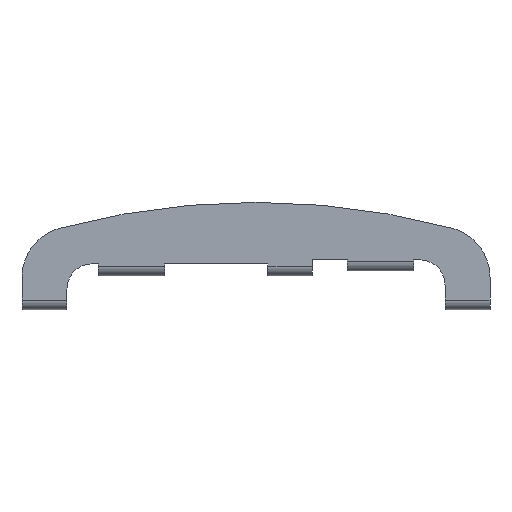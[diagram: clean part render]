
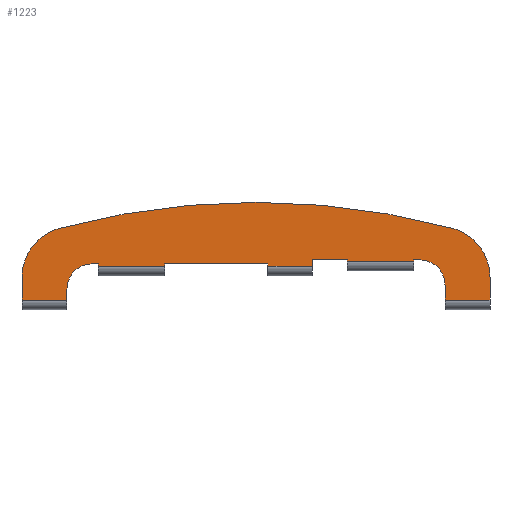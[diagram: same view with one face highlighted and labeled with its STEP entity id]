
A CAD part, top view. The second image highlights one B-rep face of the part: STEP entity #1223.
In plain terms, the highlighted planar face has unit normal (0, 0, 1).
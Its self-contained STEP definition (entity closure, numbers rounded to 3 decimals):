
#51=CIRCLE('',#1293,8.);
#54=CIRCLE('',#1298,8.);
#56=CIRCLE('',#1302,16.);
#57=CIRCLE('',#1304,240.);
#60=CIRCLE('',#1309,16.);
#128=FACE_OUTER_BOUND('',#200,.T.);
#200=EDGE_LOOP('',(#1019,#1020,#1021,#1022,#1023,#1024,#1025,#1026,#1027,
#1028,#1029,#1030,#1031,#1032,#1033,#1034,#1035,#1036,#1037,#1038,#1039,
#1040,#1041,#1042));
#245=LINE('',#1793,#380);
#249=LINE('',#1804,#384);
#256=LINE('',#1822,#391);
#285=LINE('',#1893,#420);
#288=LINE('',#1905,#423);
#310=LINE('',#1956,#445);
#326=LINE('',#1997,#461);
#331=LINE('',#2011,#466);
#332=LINE('',#2015,#467);
#335=LINE('',#2024,#470);
#337=LINE('',#2029,#472);
#338=LINE('',#2031,#473);
#339=LINE('',#2033,#474);
#340=LINE('',#2035,#475);
#341=LINE('',#2036,#476);
#342=LINE('',#2038,#477);
#343=LINE('',#2039,#478);
#344=LINE('',#2041,#479);
#345=LINE('',#2042,#480);
#380=VECTOR('',#1426,10.);
#384=VECTOR('',#1436,10.);
#391=VECTOR('',#1449,10.);
#420=VECTOR('',#1506,10.);
#423=VECTOR('',#1517,10.);
#445=VECTOR('',#1561,10.);
#461=VECTOR('',#1603,10.);
#466=VECTOR('',#1626,10.);
#467=VECTOR('',#1631,10.);
#470=VECTOR('',#1646,10.);
#472=VECTOR('',#1654,10.);
#473=VECTOR('',#1657,10.);
#474=VECTOR('',#1658,10.);
#475=VECTOR('',#1659,10.);
#476=VECTOR('',#1660,10.);
#477=VECTOR('',#1661,10.);
#478=VECTOR('',#1662,10.);
#479=VECTOR('',#1663,10.);
#480=VECTOR('',#1664,10.);
#515=VERTEX_POINT('',#1790);
#516=VERTEX_POINT('',#1792);
#519=VERTEX_POINT('',#1801);
#520=VERTEX_POINT('',#1803);
#527=VERTEX_POINT('',#1819);
#528=VERTEX_POINT('',#1821);
#551=VERTEX_POINT('',#1880);
#552=VERTEX_POINT('',#1881);
#556=VERTEX_POINT('',#1891);
#559=VERTEX_POINT('',#1898);
#560=VERTEX_POINT('',#1900);
#561=VERTEX_POINT('',#1904);
#565=VERTEX_POINT('',#1913);
#566=VERTEX_POINT('',#1915);
#567=VERTEX_POINT('',#1919);
#578=VERTEX_POINT('',#1950);
#579=VERTEX_POINT('',#1954);
#590=VERTEX_POINT('',#1994);
#591=VERTEX_POINT('',#1996);
#592=VERTEX_POINT('',#2013);
#593=VERTEX_POINT('',#2032);
#594=VERTEX_POINT('',#2034);
#595=VERTEX_POINT('',#2037);
#596=VERTEX_POINT('',#2040);
#628=EDGE_CURVE('',#515,#516,#245,.T.);
#634=EDGE_CURVE('',#519,#520,#249,.T.);
#643=EDGE_CURVE('',#527,#528,#256,.T.);
#672=EDGE_CURVE('',#551,#552,#51,.T.);
#678=EDGE_CURVE('',#556,#552,#285,.T.);
#681=EDGE_CURVE('',#560,#559,#54,.T.);
#683=EDGE_CURVE('',#560,#561,#288,.T.);
#688=EDGE_CURVE('',#566,#565,#56,.T.);
#690=EDGE_CURVE('',#567,#566,#57,.T.);
#708=EDGE_CURVE('',#578,#567,#60,.T.);
#711=EDGE_CURVE('',#565,#579,#310,.T.);
#731=EDGE_CURVE('',#590,#591,#326,.T.);
#739=EDGE_CURVE('',#520,#527,#331,.T.);
#741=EDGE_CURVE('',#592,#519,#332,.T.);
#745=EDGE_CURVE('',#528,#515,#335,.T.);
#747=EDGE_CURVE('',#516,#559,#337,.T.);
#748=EDGE_CURVE('',#579,#561,#338,.T.);
#749=EDGE_CURVE('',#593,#592,#339,.T.);
#750=EDGE_CURVE('',#594,#593,#340,.T.);
#751=EDGE_CURVE('',#591,#594,#341,.T.);
#752=EDGE_CURVE('',#595,#590,#342,.T.);
#753=EDGE_CURVE('',#551,#595,#343,.T.);
#754=EDGE_CURVE('',#556,#596,#344,.T.);
#755=EDGE_CURVE('',#596,#578,#345,.T.);
#1019=ORIENTED_EDGE('',*,*,#688,.T.);
#1020=ORIENTED_EDGE('',*,*,#711,.T.);
#1021=ORIENTED_EDGE('',*,*,#748,.T.);
#1022=ORIENTED_EDGE('',*,*,#683,.F.);
#1023=ORIENTED_EDGE('',*,*,#681,.T.);
#1024=ORIENTED_EDGE('',*,*,#747,.F.);
#1025=ORIENTED_EDGE('',*,*,#628,.F.);
#1026=ORIENTED_EDGE('',*,*,#745,.F.);
#1027=ORIENTED_EDGE('',*,*,#643,.F.);
#1028=ORIENTED_EDGE('',*,*,#739,.F.);
#1029=ORIENTED_EDGE('',*,*,#634,.F.);
#1030=ORIENTED_EDGE('',*,*,#741,.F.);
#1031=ORIENTED_EDGE('',*,*,#749,.F.);
#1032=ORIENTED_EDGE('',*,*,#750,.F.);
#1033=ORIENTED_EDGE('',*,*,#751,.F.);
#1034=ORIENTED_EDGE('',*,*,#731,.F.);
#1035=ORIENTED_EDGE('',*,*,#752,.F.);
#1036=ORIENTED_EDGE('',*,*,#753,.F.);
#1037=ORIENTED_EDGE('',*,*,#672,.T.);
#1038=ORIENTED_EDGE('',*,*,#678,.F.);
#1039=ORIENTED_EDGE('',*,*,#754,.T.);
#1040=ORIENTED_EDGE('',*,*,#755,.T.);
#1041=ORIENTED_EDGE('',*,*,#708,.T.);
#1042=ORIENTED_EDGE('',*,*,#690,.T.);
#1158=PLANE('',#1344);
#1223=ADVANCED_FACE('',(#128),#1158,.T.);
#1293=AXIS2_PLACEMENT_3D('',#1882,#1496,#1497);
#1298=AXIS2_PLACEMENT_3D('',#1901,#1512,#1513);
#1302=AXIS2_PLACEMENT_3D('',#1916,#1525,#1526);
#1304=AXIS2_PLACEMENT_3D('',#1920,#1530,#1531);
#1309=AXIS2_PLACEMENT_3D('',#1951,#1555,#1556);
#1344=AXIS2_PLACEMENT_3D('',#2030,#1655,#1656);
#1426=DIRECTION('',(0.,1.,0.));
#1436=DIRECTION('',(0.,1.,0.));
#1449=DIRECTION('',(0.,-1.,0.));
#1496=DIRECTION('center_axis',(0.,0.,-1.));
#1497=DIRECTION('ref_axis',(0.707,0.707,0.));
#1506=DIRECTION('',(0.,1.,0.));
#1512=DIRECTION('center_axis',(0.,0.,-1.));
#1513=DIRECTION('ref_axis',(-0.707,0.707,0.));
#1517=DIRECTION('',(0.,-1.,0.));
#1525=DIRECTION('center_axis',(0.,0.,1.));
#1526=DIRECTION('ref_axis',(-0.794,0.608,0.));
#1530=DIRECTION('center_axis',(0.,0.,1.));
#1531=DIRECTION('ref_axis',(-1.,0.,0.));
#1555=DIRECTION('center_axis',(0.,0.,1.));
#1556=DIRECTION('ref_axis',(0.794,0.608,0.));
#1561=DIRECTION('',(0.,-1.,0.));
#1603=DIRECTION('',(-1.,0.,0.));
#1626=DIRECTION('',(-1.,0.,0.));
#1631=DIRECTION('',(-1.,0.,0.));
#1646=DIRECTION('',(-1.,0.,0.));
#1654=DIRECTION('',(-1.,0.,0.));
#1655=DIRECTION('center_axis',(0.,0.,1.));
#1656=DIRECTION('ref_axis',(1.,0.,0.));
#1657=DIRECTION('',(1.,0.,0.));
#1658=DIRECTION('',(0.,-1.,0.));
#1659=DIRECTION('',(-1.,0.,0.));
#1660=DIRECTION('',(0.,1.,0.));
#1661=DIRECTION('',(0.,-1.,0.));
#1662=DIRECTION('',(-1.,0.,0.));
#1663=DIRECTION('',(1.,0.,0.));
#1664=DIRECTION('',(0.,1.,0.));
#1790=CARTESIAN_POINT('',(-50.,-20.25,0.));
#1792=CARTESIAN_POINT('',(-50.,-19.5,0.));
#1793=CARTESIAN_POINT('',(-50.,-19.375,0.));
#1801=CARTESIAN_POINT('',(3.8,-20.25,0.));
#1803=CARTESIAN_POINT('',(3.8,-19.5,0.));
#1804=CARTESIAN_POINT('',(3.8,-19.375,0.));
#1819=CARTESIAN_POINT('',(-29.,-19.5,0.));
#1821=CARTESIAN_POINT('',(-29.,-20.25,0.));
#1822=CARTESIAN_POINT('',(-29.,-17.5,0.));
#1880=CARTESIAN_POINT('',(52.,-18.25,0.));
#1881=CARTESIAN_POINT('',(60.,-26.25,0.));
#1882=CARTESIAN_POINT('Origin',(52.,-26.25,0.));
#1891=CARTESIAN_POINT('',(60.,-31.,0.));
#1893=CARTESIAN_POINT('',(60.,-17.875,0.));
#1898=CARTESIAN_POINT('',(-52.,-19.5,0.));
#1900=CARTESIAN_POINT('',(-60.,-27.5,0.));
#1901=CARTESIAN_POINT('Origin',(-52.,-27.5,0.));
#1904=CARTESIAN_POINT('',(-60.,-31.,0.));
#1905=CARTESIAN_POINT('',(-60.,-17.5,0.));
#1913=CARTESIAN_POINT('',(-74.25,-23.706,0.));
#1915=CARTESIAN_POINT('',(-62.411,-8.257,0.));
#1916=CARTESIAN_POINT('Origin',(-58.25,-23.706,0.));
#1919=CARTESIAN_POINT('',(62.411,-8.257,0.));
#1920=CARTESIAN_POINT('Origin',(0.,-240.,0.));
#1950=CARTESIAN_POINT('',(74.25,-23.706,0.));
#1951=CARTESIAN_POINT('Origin',(58.25,-23.706,0.));
#1954=CARTESIAN_POINT('',(-74.25,-31.,0.));
#1956=CARTESIAN_POINT('',(-74.25,0.,0.));
#1994=CARTESIAN_POINT('',(50.,-18.75,0.));
#1996=CARTESIAN_POINT('',(29.,-18.75,0.));
#1997=CARTESIAN_POINT('',(14.5,-18.75,0.));
#2011=CARTESIAN_POINT('',(1.9,-19.5,0.));
#2013=CARTESIAN_POINT('',(17.8,-20.25,0.));
#2015=CARTESIAN_POINT('',(30.,-20.25,0.));
#2024=CARTESIAN_POINT('',(30.,-20.25,0.));
#2029=CARTESIAN_POINT('',(-25.,-19.5,0.));
#2030=CARTESIAN_POINT('Origin',(0.,-15.5,0.));
#2031=CARTESIAN_POINT('',(-74.25,-31.,0.));
#2032=CARTESIAN_POINT('',(17.8,-18.25,0.));
#2033=CARTESIAN_POINT('',(17.8,-16.875,0.));
#2034=CARTESIAN_POINT('',(29.,-18.25,0.));
#2035=CARTESIAN_POINT('',(30.,-18.25,0.));
#2036=CARTESIAN_POINT('',(29.,-16.875,0.));
#2037=CARTESIAN_POINT('',(50.,-18.25,0.));
#2038=CARTESIAN_POINT('',(50.,-17.125,0.));
#2039=CARTESIAN_POINT('',(30.,-18.25,0.));
#2040=CARTESIAN_POINT('',(74.25,-31.,0.));
#2041=CARTESIAN_POINT('',(-74.25,-31.,0.));
#2042=CARTESIAN_POINT('',(74.25,-31.,0.));
